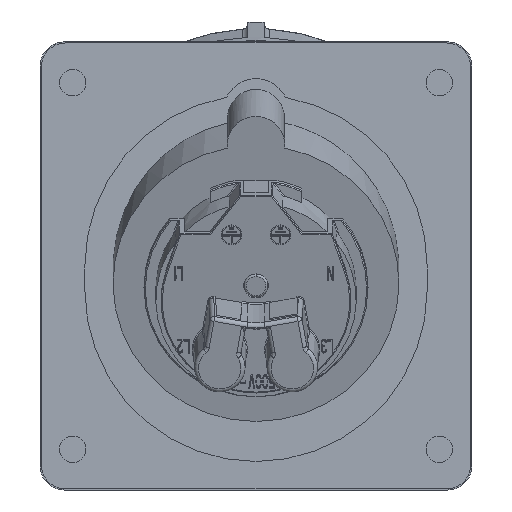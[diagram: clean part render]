
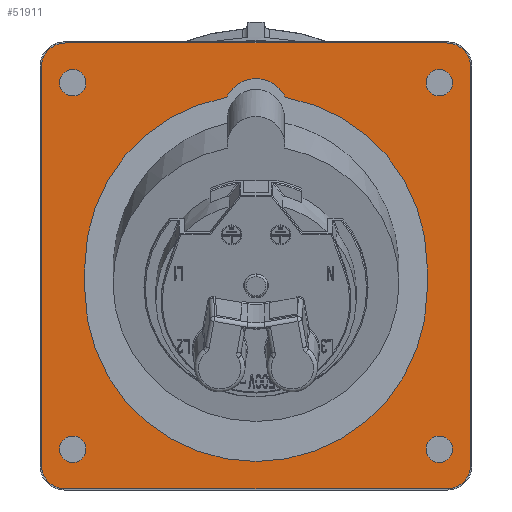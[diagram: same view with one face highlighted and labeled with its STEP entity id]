
A CAD part, front view. The second image highlights one B-rep face of the part: STEP entity #51911.
In plain terms, the highlighted planar face has unit normal (0, -1, 0).
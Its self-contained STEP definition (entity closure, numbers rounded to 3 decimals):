
#16790=CARTESIAN_POINT('',(-46.75,-3.8,-48.75));
#16791=DIRECTION('',(0.,-1.,0.));
#16792=DIRECTION('',(-1.,0.,0.));
#16793=AXIS2_PLACEMENT_3D('',#16790,#16791,#16792);
#16798=DIRECTION('',(0.,0.,-1.));
#16799=VECTOR('',#16798,97.5);
#16800=CARTESIAN_POINT('',(-52.75,-3.8,48.75));
#16801=LINE('3119',#16800,#16799);
#16805=CARTESIAN_POINT('',(-46.75,-3.8,48.75));
#16806=DIRECTION('',(0.,-1.,0.));
#16807=DIRECTION('',(0.,0.,1.));
#16808=AXIS2_PLACEMENT_3D('',#16805,#16806,#16807);
#16813=DIRECTION('',(-1.,0.,0.));
#16814=VECTOR('',#16813,93.5);
#16815=CARTESIAN_POINT('',(46.75,-3.8,54.75));
#16816=LINE('3118',#16815,#16814);
#16820=CARTESIAN_POINT('',(46.75,-3.8,48.75));
#16821=DIRECTION('',(0.,-1.,0.));
#16822=DIRECTION('',(1.,0.,0.));
#16823=AXIS2_PLACEMENT_3D('',#16820,#16821,#16822);
#16828=DIRECTION('',(0.,0.,1.));
#16829=VECTOR('',#16828,97.5);
#16830=CARTESIAN_POINT('',(52.75,-3.8,-48.75));
#16831=LINE('3117',#16830,#16829);
#16835=CARTESIAN_POINT('',(46.75,-3.8,-48.75));
#16836=DIRECTION('',(0.,-1.,0.));
#16837=DIRECTION('',(0.,0.,-1.));
#16838=AXIS2_PLACEMENT_3D('',#16835,#16836,#16837);
#16843=DIRECTION('',(1.,0.,0.));
#16844=VECTOR('',#16843,93.5);
#16845=CARTESIAN_POINT('',(-46.75,-3.8,-54.75));
#16846=LINE('3120',#16845,#16844);
#16850=CARTESIAN_POINT('',(-45.,-3.8,-45.));
#16851=DIRECTION('',(0.,-1.,0.));
#16852=DIRECTION('',(-1.,0.,0.));
#16853=AXIS2_PLACEMENT_3D('',#16850,#16851,#16852);
#16858=CARTESIAN_POINT('',(-45.,-3.8,-45.));
#16859=DIRECTION('',(0.,-1.,0.));
#16860=DIRECTION('',(1.,0.,0.));
#16861=AXIS2_PLACEMENT_3D('',#16858,#16859,#16860);
#16866=CARTESIAN_POINT('',(45.,-3.8,-45.));
#16867=DIRECTION('',(0.,-1.,0.));
#16868=DIRECTION('',(-1.,0.,0.));
#16869=AXIS2_PLACEMENT_3D('',#16866,#16867,#16868);
#16874=CARTESIAN_POINT('',(45.,-3.8,-45.));
#16875=DIRECTION('',(0.,-1.,0.));
#16876=DIRECTION('',(1.,0.,0.));
#16877=AXIS2_PLACEMENT_3D('',#16874,#16875,#16876);
#16882=CARTESIAN_POINT('',(45.,-3.8,45.));
#16883=DIRECTION('',(0.,-1.,0.));
#16884=DIRECTION('',(-1.,0.,0.));
#16885=AXIS2_PLACEMENT_3D('',#16882,#16883,#16884);
#16890=CARTESIAN_POINT('',(45.,-3.8,45.));
#16891=DIRECTION('',(0.,-1.,0.));
#16892=DIRECTION('',(1.,0.,0.));
#16893=AXIS2_PLACEMENT_3D('',#16890,#16891,#16892);
#16898=CARTESIAN_POINT('',(-45.,-3.8,45.));
#16899=DIRECTION('',(0.,-1.,0.));
#16900=DIRECTION('',(-1.,0.,0.));
#16901=AXIS2_PLACEMENT_3D('',#16898,#16899,#16900);
#16906=CARTESIAN_POINT('',(-45.,-3.8,45.));
#16907=DIRECTION('',(0.,-1.,0.));
#16908=DIRECTION('',(1.,0.,0.));
#16909=AXIS2_PLACEMENT_3D('',#16906,#16907,#16908);
#16914=CARTESIAN_POINT('',(0.,-3.8,-6.));
#16915=DIRECTION('',(0.,-1.,0.));
#16916=DIRECTION('',(-1.,0.,0.));
#16917=AXIS2_PLACEMENT_3D('',#16914,#16915,#16916);
#16922=DIRECTION('',(0.,0.,1.));
#16923=VECTOR('',#16922,6.);
#16924=CARTESIAN_POINT('',(42.,-3.8,-6.));
#16925=LINE('3130',#16924,#16923);
#16929=CARTESIAN_POINT('',(0.,-3.8,0.));
#16930=DIRECTION('',(0.,-1.,0.));
#16931=DIRECTION('',(1.,0.,0.));
#16932=AXIS2_PLACEMENT_3D('',#16929,#16930,#16931);
#16937=CARTESIAN_POINT('',(0.,-3.8,38.));
#16938=DIRECTION('',(0.,-1.,0.));
#16939=DIRECTION('',(0.907,0.,0.421));
#16940=AXIS2_PLACEMENT_3D('',#16937,#16938,#16939);
#16945=CARTESIAN_POINT('',(0.,-3.8,0.));
#16946=DIRECTION('',(0.,-1.,0.));
#16947=DIRECTION('',(-0.173,0.,0.985));
#16948=AXIS2_PLACEMENT_3D('',#16945,#16946,#16947);
#16953=DIRECTION('',(0.,0.,-1.));
#16954=VECTOR('',#16953,6.);
#16955=CARTESIAN_POINT('',(-42.,-3.8,0.));
#16956=LINE('3134',#16955,#16954);
#28783=CARTESIAN_POINT('',(-52.75,-3.8,-48.75));
#28784=CARTESIAN_POINT('',(-46.75,-3.8,-54.75));
#28785=VERTEX_POINT('',#28783);
#28786=VERTEX_POINT('',#28784);
#28787=CARTESIAN_POINT('',(46.75,-3.8,-54.75));
#28788=CARTESIAN_POINT('',(52.75,-3.8,-48.75));
#28789=VERTEX_POINT('',#28787);
#28790=VERTEX_POINT('',#28788);
#28791=CARTESIAN_POINT('',(52.75,-3.8,48.75));
#28792=CARTESIAN_POINT('',(46.75,-3.8,54.75));
#28793=VERTEX_POINT('',#28791);
#28794=VERTEX_POINT('',#28792);
#28795=CARTESIAN_POINT('',(-46.75,-3.8,54.75));
#28796=CARTESIAN_POINT('',(-52.75,-3.8,48.75));
#28797=VERTEX_POINT('',#28795);
#28798=VERTEX_POINT('',#28796);
#28799=CARTESIAN_POINT('',(-48.25,-3.8,-45.));
#28800=CARTESIAN_POINT('',(-41.75,-3.8,-45.));
#28801=VERTEX_POINT('',#28799);
#28802=VERTEX_POINT('',#28800);
#28803=CARTESIAN_POINT('',(41.75,-3.8,-45.));
#28804=CARTESIAN_POINT('',(48.25,-3.8,-45.));
#28805=VERTEX_POINT('',#28803);
#28806=VERTEX_POINT('',#28804);
#28807=CARTESIAN_POINT('',(41.75,-3.8,45.));
#28808=CARTESIAN_POINT('',(48.25,-3.8,45.));
#28809=VERTEX_POINT('',#28807);
#28810=VERTEX_POINT('',#28808);
#28811=CARTESIAN_POINT('',(-48.25,-3.8,45.));
#28812=CARTESIAN_POINT('',(-41.75,-3.8,45.));
#28813=VERTEX_POINT('',#28811);
#28814=VERTEX_POINT('',#28812);
#28815=CARTESIAN_POINT('',(-42.,-3.8,-6.));
#28816=CARTESIAN_POINT('',(42.,-3.8,-6.));
#28817=VERTEX_POINT('',#28815);
#28818=VERTEX_POINT('',#28816);
#28819=CARTESIAN_POINT('',(42.,-3.8,0.));
#28820=VERTEX_POINT('',#28819);
#28821=CARTESIAN_POINT('',(7.256,-3.8,41.368));
#28822=VERTEX_POINT('',#28821);
#28823=CARTESIAN_POINT('',(-7.256,-3.8,41.368));
#28824=VERTEX_POINT('',#28823);
#28825=CARTESIAN_POINT('',(-42.,-3.8,0.));
#28826=VERTEX_POINT('',#28825);
#51858=CARTESIAN_POINT('',(0.,-3.8,0.));
#51859=DIRECTION('',(0.,-1.,0.));
#51860=DIRECTION('',(-1.,0.,0.));
#51861=AXIS2_PLACEMENT_3D('',#51858,#51859,#51860);
#51862=PLANE('976',#51861);
#51863=ORIENTED_EDGE('3113',*,*,#51737,.F.);
#51864=ORIENTED_EDGE('3119',*,*,#51763,.F.);
#51865=ORIENTED_EDGE('3116',*,*,#51789,.F.);
#51866=ORIENTED_EDGE('3118',*,*,#51815,.F.);
#51867=ORIENTED_EDGE('3115',*,*,#51840,.F.);
#51868=ORIENTED_EDGE('3117',*,*,#51658,.F.);
#51869=ORIENTED_EDGE('3114',*,*,#51685,.F.);
#51870=ORIENTED_EDGE('3120',*,*,#51711,.F.);
#51871=EDGE_LOOP('976',(#51863,#51864,#51865,#51866,#51867,#51868,#51869,
#51870));
#51872=FACE_OUTER_BOUND('976',#51871,.F.);
#51874=ORIENTED_EDGE('3121',*,*,#51873,.T.);
#51876=ORIENTED_EDGE('3122',*,*,#51875,.T.);
#51877=EDGE_LOOP('976',(#51874,#51876));
#51878=FACE_BOUND('976',#51877,.F.);
#51880=ORIENTED_EDGE('3123',*,*,#51879,.T.);
#51882=ORIENTED_EDGE('3124',*,*,#51881,.T.);
#51883=EDGE_LOOP('976',(#51880,#51882));
#51884=FACE_BOUND('976',#51883,.F.);
#51886=ORIENTED_EDGE('3125',*,*,#51885,.T.);
#51888=ORIENTED_EDGE('3126',*,*,#51887,.T.);
#51889=EDGE_LOOP('976',(#51886,#51888));
#51890=FACE_BOUND('976',#51889,.F.);
#51892=ORIENTED_EDGE('3127',*,*,#51891,.T.);
#51894=ORIENTED_EDGE('3128',*,*,#51893,.T.);
#51895=EDGE_LOOP('976',(#51892,#51894));
#51896=FACE_BOUND('976',#51895,.F.);
#51898=ORIENTED_EDGE('3129',*,*,#51897,.T.);
#51900=ORIENTED_EDGE('3130',*,*,#51899,.T.);
#51902=ORIENTED_EDGE('3131',*,*,#51901,.T.);
#51904=ORIENTED_EDGE('3132',*,*,#51903,.T.);
#51906=ORIENTED_EDGE('3133',*,*,#51905,.T.);
#51908=ORIENTED_EDGE('3134',*,*,#51907,.T.);
#51909=EDGE_LOOP('976',(#51898,#51900,#51902,#51904,#51906,#51908));
#51910=FACE_BOUND('976',#51909,.F.);
#16794=CIRCLE('3113',#16793,6.);
#16809=CIRCLE('3116',#16808,6.);
#16824=CIRCLE('3115',#16823,6.);
#16839=CIRCLE('3114',#16838,6.);
#16854=CIRCLE('3121',#16853,3.25);
#16862=CIRCLE('3122',#16861,3.25);
#16870=CIRCLE('3123',#16869,3.25);
#16878=CIRCLE('3124',#16877,3.25);
#16886=CIRCLE('3125',#16885,3.25);
#16894=CIRCLE('3126',#16893,3.25);
#16902=CIRCLE('3127',#16901,3.25);
#16910=CIRCLE('3128',#16909,3.25);
#16918=CIRCLE('3129',#16917,42.);
#16933=CIRCLE('3131',#16932,42.);
#16941=CIRCLE('3132',#16940,8.);
#16949=CIRCLE('3133',#16948,42.);
#51658=EDGE_CURVE('3117',#28790,#28793,#16831,.T.);
#51685=EDGE_CURVE('3114',#28789,#28790,#16839,.T.);
#51711=EDGE_CURVE('3120',#28786,#28789,#16846,.T.);
#51737=EDGE_CURVE('3113',#28785,#28786,#16794,.T.);
#51763=EDGE_CURVE('3119',#28798,#28785,#16801,.T.);
#51789=EDGE_CURVE('3116',#28797,#28798,#16809,.T.);
#51815=EDGE_CURVE('3118',#28794,#28797,#16816,.T.);
#51840=EDGE_CURVE('3115',#28793,#28794,#16824,.T.);
#51873=EDGE_CURVE('3121',#28801,#28802,#16854,.T.);
#51875=EDGE_CURVE('3122',#28802,#28801,#16862,.T.);
#51879=EDGE_CURVE('3123',#28805,#28806,#16870,.T.);
#51881=EDGE_CURVE('3124',#28806,#28805,#16878,.T.);
#51885=EDGE_CURVE('3125',#28809,#28810,#16886,.T.);
#51887=EDGE_CURVE('3126',#28810,#28809,#16894,.T.);
#51891=EDGE_CURVE('3127',#28813,#28814,#16902,.T.);
#51893=EDGE_CURVE('3128',#28814,#28813,#16910,.T.);
#51897=EDGE_CURVE('3129',#28817,#28818,#16918,.T.);
#51899=EDGE_CURVE('3130',#28818,#28820,#16925,.T.);
#51901=EDGE_CURVE('3131',#28820,#28822,#16933,.T.);
#51903=EDGE_CURVE('3132',#28822,#28824,#16941,.T.);
#51905=EDGE_CURVE('3133',#28824,#28826,#16949,.T.);
#51907=EDGE_CURVE('3134',#28826,#28817,#16956,.T.);
#51911=ADVANCED_FACE('976',(#51872,#51878,#51884,#51890,#51896,#51910),#51862,
.T.);
